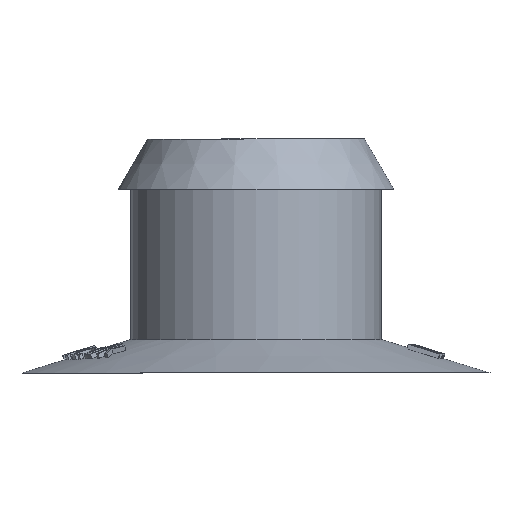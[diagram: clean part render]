
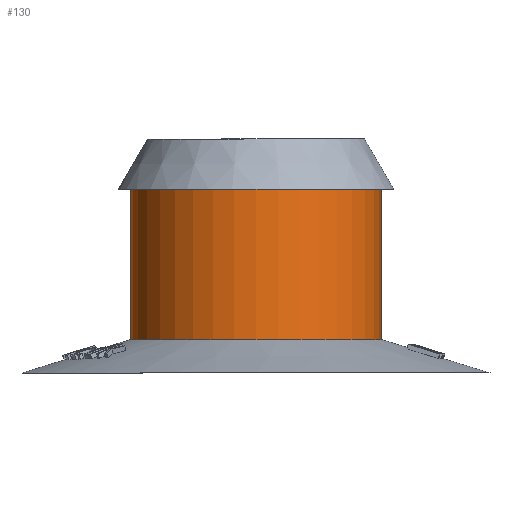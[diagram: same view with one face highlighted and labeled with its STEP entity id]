
A CAD part, front view. The second image highlights one B-rep face of the part: STEP entity #130.
In plain terms, the highlighted cylindrical face has radius 7.5 mm (diameter 15 mm), a full revolution.
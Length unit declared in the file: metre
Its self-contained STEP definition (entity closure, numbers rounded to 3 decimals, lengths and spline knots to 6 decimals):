
#130 = ADVANCED_FACE( '', ( #443, #444 ), #445, .T. );
#443 = FACE_OUTER_BOUND( '', #2300, .T. );
#444 = FACE_OUTER_BOUND( '', #2301, .T. );
#445 = CYLINDRICAL_SURFACE( '', #2302, 0.0075 );
#2300 = EDGE_LOOP( '', ( #5462 ) );
#2301 = EDGE_LOOP( '', ( #5463 ) );
#2302 = AXIS2_PLACEMENT_3D( '', #5464, #5465, #5466 );
#5462 = ORIENTED_EDGE( '', *, *, #6659, .T. );
#5463 = ORIENTED_EDGE( '', *, *, #6803, .F. );
#5464 = CARTESIAN_POINT( '', ( 0., 0., 0.0075 ) );
#5465 = DIRECTION( '', ( 0., 0., -1. ) );
#5466 = DIRECTION( '', ( 1., 0., 0. ) );
#6659 = EDGE_CURVE( '', #7456, #7456, #7457, .T. );
#6803 = EDGE_CURVE( '', #7691, #7691, #7692, .T. );
#7456 = VERTEX_POINT( '', #9331 );
#7457 = CIRCLE( '', #9332, 0.0075 );
#7691 = VERTEX_POINT( '', #10396 );
#7692 = CIRCLE( '', #10397, 0.0075 );
#9331 = CARTESIAN_POINT( '', ( 0.0075, 0., -0.0045 ) );
#9332 = AXIS2_PLACEMENT_3D( '', #11751, #11752, #11753 );
#10396 = CARTESIAN_POINT( '', ( 0.0075, 0., 0.0045 ) );
#10397 = AXIS2_PLACEMENT_3D( '', #11831, #11832, #11833 );
#11751 = CARTESIAN_POINT( '', ( 0., 0., -0.0045 ) );
#11752 = DIRECTION( '', ( 0., 0., 1. ) );
#11753 = DIRECTION( '', ( 1., 0., 0. ) );
#11831 = CARTESIAN_POINT( '', ( 0., 0., 0.0045 ) );
#11832 = DIRECTION( '', ( 0., 0., 1. ) );
#11833 = DIRECTION( '', ( 1., 0., 0. ) );
